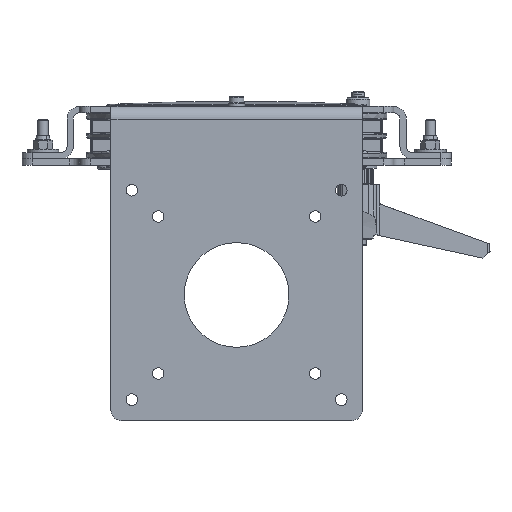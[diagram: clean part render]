
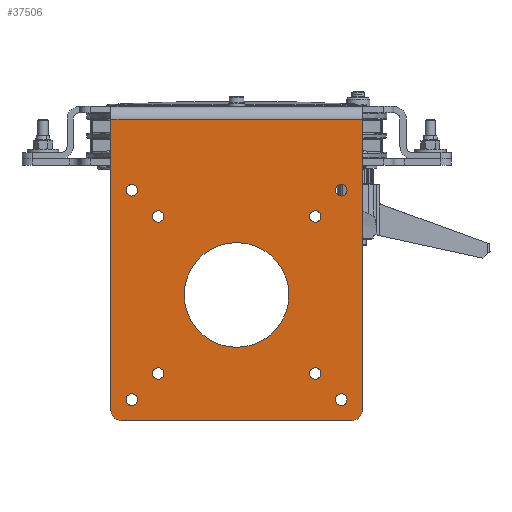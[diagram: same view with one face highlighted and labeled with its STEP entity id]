
A CAD part, left-side view. The second image highlights one B-rep face of the part: STEP entity #37506.
In plain terms, the highlighted planar face has unit normal (-1, 0, 0) as drawn and (0, 1, 0) by its records, which use the part's own axes.
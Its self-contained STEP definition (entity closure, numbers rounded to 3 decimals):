
#34791=CARTESIAN_POINT('',(-55.,3.,-145.));
#34792=DIRECTION('',(0.,1.,0.));
#34793=DIRECTION('',(0.,0.,-1.));
#34794=AXIS2_PLACEMENT_3D('',#34791,#34792,#34793);
#34799=DIRECTION('',(1.,0.,0.));
#34800=VECTOR('',#34799,110.);
#34801=CARTESIAN_POINT('',(-55.,3.,-150.));
#34802=LINE('',#34801,#34800);
#34806=CARTESIAN_POINT('',(55.,3.,-145.));
#34807=DIRECTION('',(0.,1.,0.));
#34808=DIRECTION('',(1.,0.,0.));
#34809=AXIS2_PLACEMENT_3D('',#34806,#34807,#34808);
#34814=DIRECTION('',(0.,0.,1.));
#34815=VECTOR('',#34814,139.);
#34816=CARTESIAN_POINT('',(60.,3.,-145.));
#34817=LINE('',#34816,#34815);
#34821=DIRECTION('',(-1.,0.,0.));
#34822=VECTOR('',#34821,120.);
#34823=CARTESIAN_POINT('',(60.,3.,-6.));
#34824=LINE('',#34823,#34822);
#34828=DIRECTION('',(0.,0.,1.));
#34829=VECTOR('',#34828,139.);
#34830=CARTESIAN_POINT('',(-60.,3.,-145.));
#34831=LINE('',#34830,#34829);
#34835=CARTESIAN_POINT('',(50.,3.,-140.));
#34836=DIRECTION('',(0.,1.,0.));
#34837=DIRECTION('',(-1.,0.,0.));
#34838=AXIS2_PLACEMENT_3D('',#34835,#34836,#34837);
#34843=CARTESIAN_POINT('',(50.,3.,-140.));
#34844=DIRECTION('',(0.,1.,0.));
#34845=DIRECTION('',(1.,0.,0.));
#34846=AXIS2_PLACEMENT_3D('',#34843,#34844,#34845);
#34851=CARTESIAN_POINT('',(-50.,3.,-140.));
#34852=DIRECTION('',(0.,1.,0.));
#34853=DIRECTION('',(-1.,0.,0.));
#34854=AXIS2_PLACEMENT_3D('',#34851,#34852,#34853);
#34859=CARTESIAN_POINT('',(-50.,3.,-140.));
#34860=DIRECTION('',(0.,1.,0.));
#34861=DIRECTION('',(1.,0.,0.));
#34862=AXIS2_PLACEMENT_3D('',#34859,#34860,#34861);
#34867=CARTESIAN_POINT('',(50.,3.,-40.));
#34868=DIRECTION('',(0.,1.,0.));
#34869=DIRECTION('',(-1.,0.,0.));
#34870=AXIS2_PLACEMENT_3D('',#34867,#34868,#34869);
#34875=CARTESIAN_POINT('',(50.,3.,-40.));
#34876=DIRECTION('',(0.,1.,0.));
#34877=DIRECTION('',(1.,0.,0.));
#34878=AXIS2_PLACEMENT_3D('',#34875,#34876,#34877);
#34883=CARTESIAN_POINT('',(-50.,3.,-40.));
#34884=DIRECTION('',(0.,1.,0.));
#34885=DIRECTION('',(-1.,0.,0.));
#34886=AXIS2_PLACEMENT_3D('',#34883,#34884,#34885);
#34891=CARTESIAN_POINT('',(-50.,3.,-40.));
#34892=DIRECTION('',(0.,1.,0.));
#34893=DIRECTION('',(1.,0.,0.));
#34894=AXIS2_PLACEMENT_3D('',#34891,#34892,#34893);
#34899=CARTESIAN_POINT('',(-37.5,3.,-127.5));
#34900=DIRECTION('',(0.,1.,0.));
#34901=DIRECTION('',(-1.,0.,0.));
#34902=AXIS2_PLACEMENT_3D('',#34899,#34900,#34901);
#34907=CARTESIAN_POINT('',(-37.5,3.,-127.5));
#34908=DIRECTION('',(0.,1.,0.));
#34909=DIRECTION('',(1.,0.,0.));
#34910=AXIS2_PLACEMENT_3D('',#34907,#34908,#34909);
#34915=CARTESIAN_POINT('',(37.5,3.,-127.5));
#34916=DIRECTION('',(0.,1.,0.));
#34917=DIRECTION('',(-1.,0.,0.));
#34918=AXIS2_PLACEMENT_3D('',#34915,#34916,#34917);
#34923=CARTESIAN_POINT('',(37.5,3.,-127.5));
#34924=DIRECTION('',(0.,1.,0.));
#34925=DIRECTION('',(1.,0.,0.));
#34926=AXIS2_PLACEMENT_3D('',#34923,#34924,#34925);
#34931=CARTESIAN_POINT('',(37.5,3.,-52.5));
#34932=DIRECTION('',(0.,1.,0.));
#34933=DIRECTION('',(-1.,0.,0.));
#34934=AXIS2_PLACEMENT_3D('',#34931,#34932,#34933);
#34939=CARTESIAN_POINT('',(37.5,3.,-52.5));
#34940=DIRECTION('',(0.,1.,0.));
#34941=DIRECTION('',(1.,0.,0.));
#34942=AXIS2_PLACEMENT_3D('',#34939,#34940,#34941);
#34947=CARTESIAN_POINT('',(-37.5,3.,-52.5));
#34948=DIRECTION('',(0.,1.,0.));
#34949=DIRECTION('',(-1.,0.,0.));
#34950=AXIS2_PLACEMENT_3D('',#34947,#34948,#34949);
#34955=CARTESIAN_POINT('',(-37.5,3.,-52.5));
#34956=DIRECTION('',(0.,1.,0.));
#34957=DIRECTION('',(1.,0.,0.));
#34958=AXIS2_PLACEMENT_3D('',#34955,#34956,#34957);
#34963=CARTESIAN_POINT('',(0.,3.,-90.));
#34964=DIRECTION('',(0.,-1.,0.));
#34965=DIRECTION('',(1.,0.,0.));
#34966=AXIS2_PLACEMENT_3D('',#34963,#34964,#34965);
#34971=CARTESIAN_POINT('',(0.,3.,-90.));
#34972=DIRECTION('',(0.,-1.,0.));
#34973=DIRECTION('',(-1.,0.,0.));
#34974=AXIS2_PLACEMENT_3D('',#34971,#34972,#34973);
#36006=CARTESIAN_POINT('',(60.,3.,-6.));
#36007=CARTESIAN_POINT('',(-60.,3.,-6.));
#36008=VERTEX_POINT('',#36006);
#36009=VERTEX_POINT('',#36007);
#36026=CARTESIAN_POINT('',(-55.,3.,-150.));
#36027=CARTESIAN_POINT('',(-60.,3.,-145.));
#36028=VERTEX_POINT('',#36026);
#36029=VERTEX_POINT('',#36027);
#36038=CARTESIAN_POINT('',(60.,3.,-145.));
#36039=VERTEX_POINT('',#36038);
#36040=CARTESIAN_POINT('',(55.,3.,-150.));
#36041=VERTEX_POINT('',#36040);
#36054=CARTESIAN_POINT('',(47.25,3.,-140.));
#36055=CARTESIAN_POINT('',(52.75,3.,-140.));
#36056=VERTEX_POINT('',#36054);
#36057=VERTEX_POINT('',#36055);
#36062=CARTESIAN_POINT('',(-52.75,3.,-140.));
#36063=CARTESIAN_POINT('',(-47.25,3.,-140.));
#36064=VERTEX_POINT('',#36062);
#36065=VERTEX_POINT('',#36063);
#36070=CARTESIAN_POINT('',(47.25,3.,-40.));
#36071=CARTESIAN_POINT('',(52.75,3.,-40.));
#36072=VERTEX_POINT('',#36070);
#36073=VERTEX_POINT('',#36071);
#36078=CARTESIAN_POINT('',(-52.75,3.,-40.));
#36079=CARTESIAN_POINT('',(-47.25,3.,-40.));
#36080=VERTEX_POINT('',#36078);
#36081=VERTEX_POINT('',#36079);
#36086=CARTESIAN_POINT('',(-40.25,3.,-127.5));
#36087=CARTESIAN_POINT('',(-34.75,3.,-127.5));
#36088=VERTEX_POINT('',#36086);
#36089=VERTEX_POINT('',#36087);
#36094=CARTESIAN_POINT('',(34.75,3.,-127.5));
#36095=CARTESIAN_POINT('',(40.25,3.,-127.5));
#36096=VERTEX_POINT('',#36094);
#36097=VERTEX_POINT('',#36095);
#36102=CARTESIAN_POINT('',(34.75,3.,-52.5));
#36103=CARTESIAN_POINT('',(40.25,3.,-52.5));
#36104=VERTEX_POINT('',#36102);
#36105=VERTEX_POINT('',#36103);
#36110=CARTESIAN_POINT('',(-40.25,3.,-52.5));
#36111=CARTESIAN_POINT('',(-34.75,3.,-52.5));
#36112=VERTEX_POINT('',#36110);
#36113=VERTEX_POINT('',#36111);
#36206=CARTESIAN_POINT('',(25.,3.,-90.));
#36207=CARTESIAN_POINT('',(-25.,3.,-90.));
#36208=VERTEX_POINT('',#36206);
#36209=VERTEX_POINT('',#36207);
#37435=CARTESIAN_POINT('',(-75.,3.,-150.));
#37436=DIRECTION('',(0.,1.,0.));
#37437=DIRECTION('',(0.,0.,1.));
#37438=AXIS2_PLACEMENT_3D('',#37435,#37436,#37437);
#37439=PLANE('',#37438);
#37440=ORIENTED_EDGE('',*,*,#37418,.F.);
#37442=ORIENTED_EDGE('',*,*,#37441,.T.);
#37444=ORIENTED_EDGE('',*,*,#37443,.F.);
#37446=ORIENTED_EDGE('',*,*,#37445,.T.);
#37448=ORIENTED_EDGE('',*,*,#37447,.T.);
#37449=ORIENTED_EDGE('',*,*,#37394,.F.);
#37450=EDGE_LOOP('',(#37440,#37442,#37444,#37446,#37448,#37449));
#37451=FACE_OUTER_BOUND('',#37450,.F.);
#37453=ORIENTED_EDGE('',*,*,#37452,.T.);
#37455=ORIENTED_EDGE('',*,*,#37454,.T.);
#37456=EDGE_LOOP('',(#37453,#37455));
#37457=FACE_BOUND('',#37456,.F.);
#37459=ORIENTED_EDGE('',*,*,#37458,.T.);
#37461=ORIENTED_EDGE('',*,*,#37460,.T.);
#37462=EDGE_LOOP('',(#37459,#37461));
#37463=FACE_BOUND('',#37462,.F.);
#37465=ORIENTED_EDGE('',*,*,#37464,.T.);
#37467=ORIENTED_EDGE('',*,*,#37466,.T.);
#37468=EDGE_LOOP('',(#37465,#37467));
#37469=FACE_BOUND('',#37468,.F.);
#37471=ORIENTED_EDGE('',*,*,#37470,.T.);
#37473=ORIENTED_EDGE('',*,*,#37472,.T.);
#37474=EDGE_LOOP('',(#37471,#37473));
#37475=FACE_BOUND('',#37474,.F.);
#37477=ORIENTED_EDGE('',*,*,#37476,.T.);
#37479=ORIENTED_EDGE('',*,*,#37478,.T.);
#37480=EDGE_LOOP('',(#37477,#37479));
#37481=FACE_BOUND('',#37480,.F.);
#37483=ORIENTED_EDGE('',*,*,#37482,.T.);
#37485=ORIENTED_EDGE('',*,*,#37484,.T.);
#37486=EDGE_LOOP('',(#37483,#37485));
#37487=FACE_BOUND('',#37486,.F.);
#37489=ORIENTED_EDGE('',*,*,#37488,.T.);
#37491=ORIENTED_EDGE('',*,*,#37490,.T.);
#37492=EDGE_LOOP('',(#37489,#37491));
#37493=FACE_BOUND('',#37492,.F.);
#37495=ORIENTED_EDGE('',*,*,#37494,.T.);
#37497=ORIENTED_EDGE('',*,*,#37496,.T.);
#37498=EDGE_LOOP('',(#37495,#37497));
#37499=FACE_BOUND('',#37498,.F.);
#37501=ORIENTED_EDGE('',*,*,#37500,.F.);
#37503=ORIENTED_EDGE('',*,*,#37502,.F.);
#37504=EDGE_LOOP('',(#37501,#37503));
#37505=FACE_BOUND('',#37504,.F.);
#34795=CIRCLE('',#34794,5.);
#34810=CIRCLE('',#34809,5.);
#34839=CIRCLE('',#34838,2.75);
#34847=CIRCLE('',#34846,2.75);
#34855=CIRCLE('',#34854,2.75);
#34863=CIRCLE('',#34862,2.75);
#34871=CIRCLE('',#34870,2.75);
#34879=CIRCLE('',#34878,2.75);
#34887=CIRCLE('',#34886,2.75);
#34895=CIRCLE('',#34894,2.75);
#34903=CIRCLE('',#34902,2.75);
#34911=CIRCLE('',#34910,2.75);
#34919=CIRCLE('',#34918,2.75);
#34927=CIRCLE('',#34926,2.75);
#34935=CIRCLE('',#34934,2.75);
#34943=CIRCLE('',#34942,2.75);
#34951=CIRCLE('',#34950,2.75);
#34959=CIRCLE('',#34958,2.75);
#34967=CIRCLE('',#34966,25.);
#34975=CIRCLE('',#34974,25.);
#37394=EDGE_CURVE('',#36029,#36009,#34831,.T.);
#37418=EDGE_CURVE('',#36028,#36029,#34795,.T.);
#37441=EDGE_CURVE('',#36028,#36041,#34802,.T.);
#37443=EDGE_CURVE('',#36039,#36041,#34810,.T.);
#37445=EDGE_CURVE('',#36039,#36008,#34817,.T.);
#37447=EDGE_CURVE('',#36008,#36009,#34824,.T.);
#37452=EDGE_CURVE('',#36056,#36057,#34839,.T.);
#37454=EDGE_CURVE('',#36057,#36056,#34847,.T.);
#37458=EDGE_CURVE('',#36064,#36065,#34855,.T.);
#37460=EDGE_CURVE('',#36065,#36064,#34863,.T.);
#37464=EDGE_CURVE('',#36072,#36073,#34871,.T.);
#37466=EDGE_CURVE('',#36073,#36072,#34879,.T.);
#37470=EDGE_CURVE('',#36080,#36081,#34887,.T.);
#37472=EDGE_CURVE('',#36081,#36080,#34895,.T.);
#37476=EDGE_CURVE('',#36088,#36089,#34903,.T.);
#37478=EDGE_CURVE('',#36089,#36088,#34911,.T.);
#37482=EDGE_CURVE('',#36096,#36097,#34919,.T.);
#37484=EDGE_CURVE('',#36097,#36096,#34927,.T.);
#37488=EDGE_CURVE('',#36104,#36105,#34935,.T.);
#37490=EDGE_CURVE('',#36105,#36104,#34943,.T.);
#37494=EDGE_CURVE('',#36112,#36113,#34951,.T.);
#37496=EDGE_CURVE('',#36113,#36112,#34959,.T.);
#37500=EDGE_CURVE('',#36208,#36209,#34967,.T.);
#37502=EDGE_CURVE('',#36209,#36208,#34975,.T.);
#37506=ADVANCED_FACE('',(#37451,#37457,#37463,#37469,#37475,#37481,#37487,
#37493,#37499,#37505),#37439,.T.);
